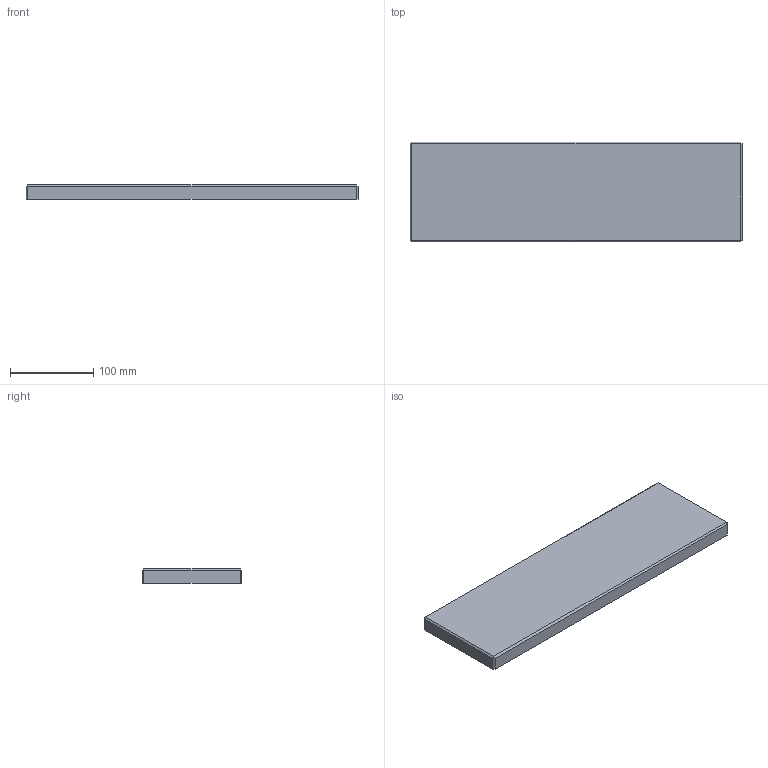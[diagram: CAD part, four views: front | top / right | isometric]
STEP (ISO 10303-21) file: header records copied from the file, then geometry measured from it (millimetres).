
FILE_DESCRIPTION(('Open CASCADE Model'),'2;1');
FILE_NAME('Open CASCADE Shape Model','2026-09-27T15:56:04',('Author'),( 'Open CASCADE'),'Open CASCADE STEP processor 7.9','Open CASCADE 7.9' ,'Unknown');
FILE_SCHEMA(('AUTOMOTIVE_DESIGN { 1 0 10303 214 1 1 1 1 }'));
Length unit declared in the file: millimetre
Products named in the file (1): Open CASCADE STEP translator 7.9 18
Bounding box: 400 x 120 x 18 mm (x, y, z)
Volume: 861797.3 mm3; surface area: 113403.2 mm2
Topology: 1 solids, 1 shells, 18 faces, 36 edges, 20 vertices
Faces by surface type: plane 18
Entity records: 922 total; most frequent: CARTESIAN_POINT 147, DIRECTION 146, LINE 108, VECTOR 108, ORIENTED_EDGE 72, PCURVE 72, DEFINITIONAL_REPRESENTATION 72, EDGE_CURVE 36
